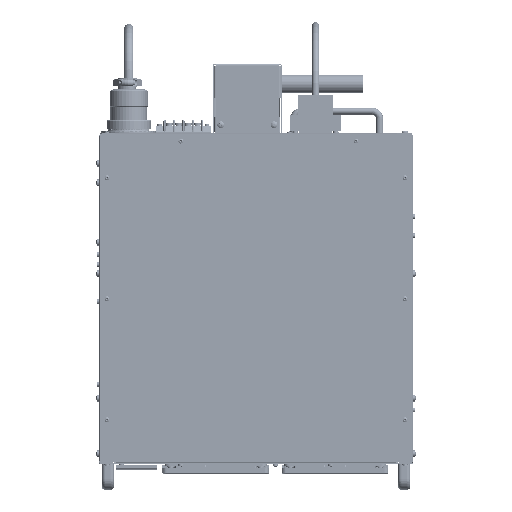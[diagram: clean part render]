
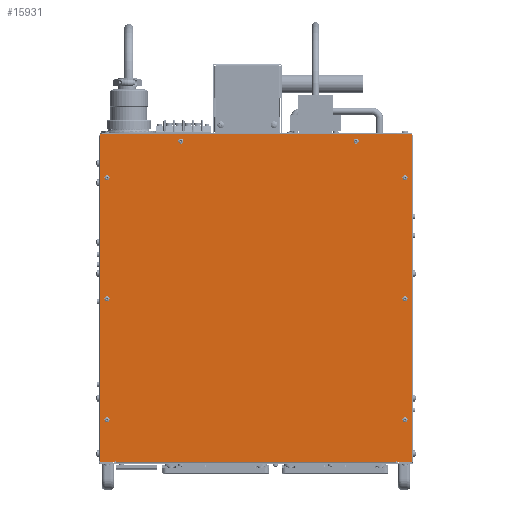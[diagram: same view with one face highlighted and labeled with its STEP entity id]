
A CAD part, top view. The second image highlights one B-rep face of the part: STEP entity #15931.
In plain terms, the highlighted planar face has unit normal (0, 0, 1) as drawn and (0, 0, -1) by its records, which use the part's own axes.
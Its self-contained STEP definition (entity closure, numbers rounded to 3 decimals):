
#15931=ADVANCED_FACE('',(#40320),#40321,.F.);
#15949=EDGE_CURVE('',#40338,#40345,#40348,.T.);
#15973=EDGE_CURVE('',#40380,#40373,#40383,.T.);
#15975=EDGE_CURVE('',#40373,#40385,#40386,.T.);
#15985=EDGE_CURVE('',#40400,#40397,#40401,.T.);
#16027=EDGE_CURVE('',#40448,#40451,#40454,.T.);
#16033=EDGE_CURVE('',#40456,#40459,#40462,.T.);
#16043=EDGE_CURVE('',#40380,#40456,#40473,.T.);
#16045=EDGE_CURVE('',#40385,#40397,#40475,.T.);
#16049=EDGE_CURVE('',#40345,#40477,#40480,.T.);
#16051=EDGE_CURVE('',#40459,#40448,#40482,.T.);
#16053=EDGE_CURVE('',#40451,#40338,#40484,.T.);
#16055=EDGE_CURVE('',#40477,#40400,#40486,.T.);
#40320=FACE_OUTER_BOUND('',#73178,.T.);
#40321=PLANE('',#73179);
#40338=VERTEX_POINT('',#73197);
#40345=VERTEX_POINT('',#73208);
#40348=LINE('',#73213,#73214);
#40373=VERTEX_POINT('',#73254);
#40380=VERTEX_POINT('',#73265);
#40383=LINE('',#73270,#73271);
#40385=VERTEX_POINT('',#73274);
#40386=LINE('',#73275,#73276);
#40397=VERTEX_POINT('',#73294);
#40400=VERTEX_POINT('',#73299);
#40401=LINE('',#73300,#73301);
#40448=VERTEX_POINT('',#73384);
#40451=VERTEX_POINT('',#73389);
#40454=LINE('',#73394,#73395);
#40456=VERTEX_POINT('',#73398);
#40459=VERTEX_POINT('',#73403);
#40462=LINE('',#73408,#73409);
#40473=LINE('',#73429,#73430);
#40475=LINE('',#73433,#73434);
#40477=VERTEX_POINT('',#73437);
#40480=LINE('',#73442,#73443);
#40482=LINE('',#73446,#73447);
#40484=LINE('',#73450,#73451);
#40486=LINE('',#73454,#73455);
#73178=EDGE_LOOP('',(#148529,#148530,#148531,#148532,#148533,#148534,#148535,#148536,#148537,#148538,#148539,#148540));
#73179=AXIS2_PLACEMENT_3D('',#148541,#148542,#148543);
#73197=CARTESIAN_POINT('',(1.5,345.0,0.0));
#73208=CARTESIAN_POINT('',(2.5,345.0,0.0));
#73213=CARTESIAN_POINT('',(1.5,345.0,0.0));
#73214=VECTOR('',#148589,1.0);
#73254=CARTESIAN_POINT('',(383.5,0.,0.0));
#73265=CARTESIAN_POINT('',(1.5,0.,0.0));
#73270=CARTESIAN_POINT('',(0.0,0.,0.0));
#73271=VECTOR('',#148605,1.0);
#73274=CARTESIAN_POINT('',(383.5,363.0,0.0));
#73275=CARTESIAN_POINT('',(383.5,0.,0.0));
#73276=VECTOR('',#148606,1.0);
#73294=CARTESIAN_POINT('',(1.5,363.0,0.0));
#73299=CARTESIAN_POINT('',(1.5,345.8,0.0));
#73300=CARTESIAN_POINT('',(1.5,-18.0,0.0));
#73301=VECTOR('',#148611,1.0);
#73384=CARTESIAN_POINT('',(2.5,18.0,0.0));
#73389=CARTESIAN_POINT('',(1.5,18.0,0.0));
#73394=CARTESIAN_POINT('',(2.5,18.0,0.0));
#73395=VECTOR('',#148634,1.0);
#73398=CARTESIAN_POINT('',(1.5,17.2,0.0));
#73403=CARTESIAN_POINT('',(2.5,17.2,0.0));
#73408=CARTESIAN_POINT('',(1.5,17.2,0.0));
#73409=VECTOR('',#148637,1.0);
#73429=CARTESIAN_POINT('',(1.5,-18.0,0.0));
#73430=VECTOR('',#148642,1.0);
#73433=CARTESIAN_POINT('',(383.5,363.0,0.0));
#73434=VECTOR('',#148643,1.0);
#73437=CARTESIAN_POINT('',(2.5,345.8,0.0));
#73442=CARTESIAN_POINT('',(2.5,345.0,0.0));
#73443=VECTOR('',#148645,1.0);
#73446=CARTESIAN_POINT('',(2.5,17.2,0.0));
#73447=VECTOR('',#148646,1.0);
#73450=CARTESIAN_POINT('',(1.5,-18.0,0.0));
#73451=VECTOR('',#148647,1.0);
#73454=CARTESIAN_POINT('',(2.5,345.8,0.0));
#73455=VECTOR('',#148648,1.0);
#148529=ORIENTED_EDGE('',*,*,#16033,.T.);
#148530=ORIENTED_EDGE('',*,*,#16051,.T.);
#148531=ORIENTED_EDGE('',*,*,#16027,.T.);
#148532=ORIENTED_EDGE('',*,*,#16053,.T.);
#148533=ORIENTED_EDGE('',*,*,#15949,.T.);
#148534=ORIENTED_EDGE('',*,*,#16049,.T.);
#148535=ORIENTED_EDGE('',*,*,#16055,.T.);
#148536=ORIENTED_EDGE('',*,*,#15985,.T.);
#148537=ORIENTED_EDGE('',*,*,#16045,.F.);
#148538=ORIENTED_EDGE('',*,*,#15975,.F.);
#148539=ORIENTED_EDGE('',*,*,#15973,.F.);
#148540=ORIENTED_EDGE('',*,*,#16043,.T.);
#148541=CARTESIAN_POINT('',(191.75,181.5,0.0));
#148542=DIRECTION('',(0.0,0.0,1.0));
#148543=DIRECTION('',(1.0,0.0,0.0));
#148589=DIRECTION('',(1.0,0.0,0.0));
#148605=DIRECTION('',(1.0,0.0,0.0));
#148606=DIRECTION('',(0.0,1.0,0.0));
#148611=DIRECTION('',(0.0,1.0,0.0));
#148634=DIRECTION('',(-1.0,0.0,0.0));
#148637=DIRECTION('',(1.0,0.0,0.0));
#148642=DIRECTION('',(0.0,1.0,0.0));
#148643=DIRECTION('',(-1.0,0.0,0.0));
#148645=DIRECTION('',(0.0,1.0,0.0));
#148646=DIRECTION('',(0.0,1.0,0.0));
#148647=DIRECTION('',(0.0,1.0,0.0));
#148648=DIRECTION('',(-1.0,0.0,0.0));
